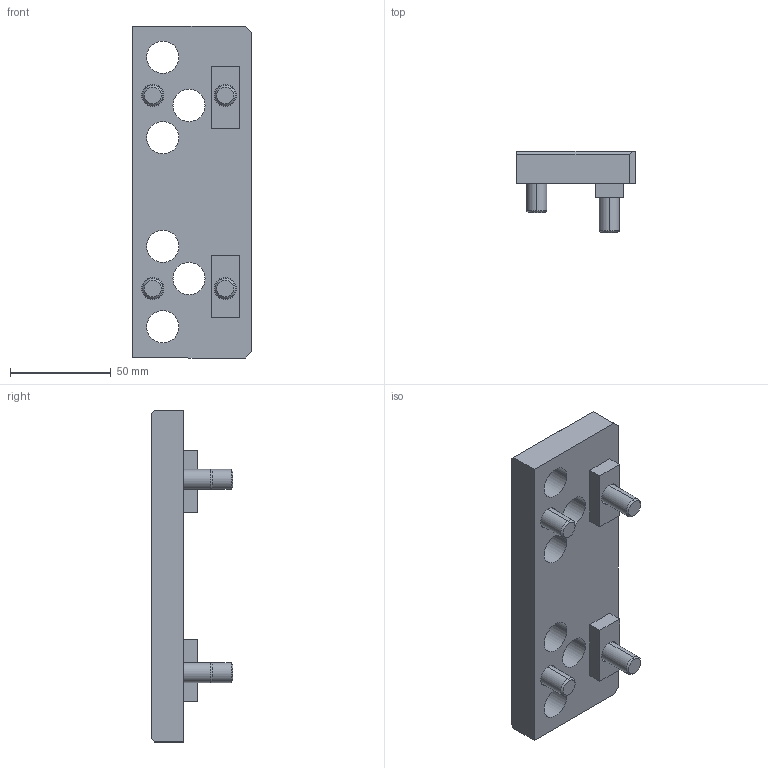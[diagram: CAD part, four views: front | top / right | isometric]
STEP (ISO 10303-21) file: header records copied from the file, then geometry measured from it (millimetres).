
FILE_DESCRIPTION (( 'STEP AP203' ), '1' );
FILE_NAME ('6921884005042_Trex Fixbacke.STEP', '2009-03-10T10:00:37', ( 'Markus Römer' ), ( '' ), 'SwSTEP 2.0', 'SolidWorks 2008', '' );
FILE_SCHEMA (( 'CONFIG_CONTROL_DESIGN' ));
Length unit declared in the file: millimetre
Products named in the file (1): 6921884005042_Trex Fixbacke
Bounding box: 59 x 40.5 x 165 mm (x, y, z)
Volume: 143855.1 mm3; surface area: 39186.4 mm2
Topology: 1 solids, 1 shells, 160 faces, 364 edges, 220 vertices
Faces by surface type: plane 84, cylinder 44, torus 16, cone 16
Entity records: 4517 total; most frequent: DIRECTION 830, CARTESIAN_POINT 737, ORIENTED_EDGE 712, EDGE_CURVE 356, AXIS2_PLACEMENT_3D 313, VERTEX_POINT 220, VECTOR 204, LINE 204
